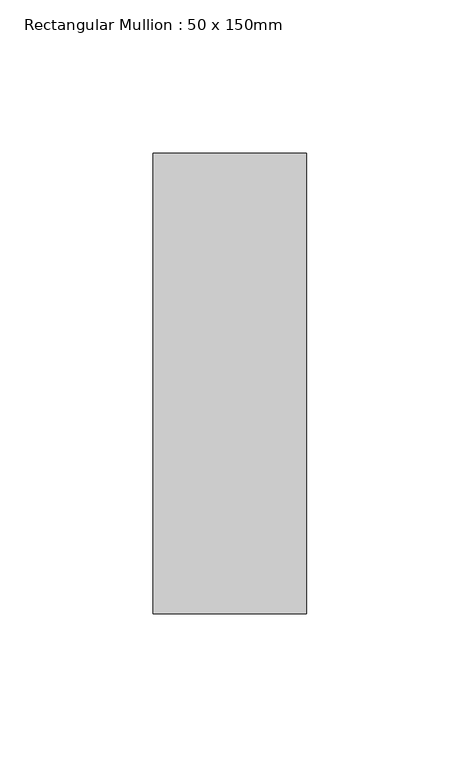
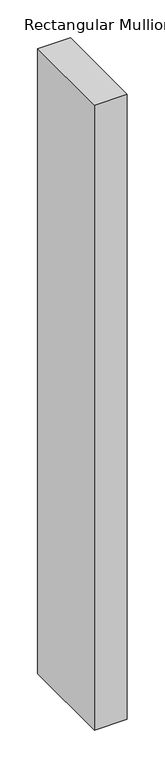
"""IFC4 building model written with IfcOpenShell, lengths in millimetres: member geometry, Rectangular Mullion : 50 x 150mm."""

from ifc_helpers import new_model, si_unit, frame, origin, place, context, project, spatial, polyline, outline, extrude, source, transform, mapped, element, save


def rectangular_mullion_50_x_150mm_8ebf05df(model_context):
    return source(origin(), model_context, "Body", "SweptSolid", [
        extrude(outline(polyline([(25.0, 75.0), (25.0, -75.0), (-25.0, -75.0), (-25.0, 75.0), (25.0, 75.0)])), frame((0.0, 0.0, -1007.5), z_axis=(0.0, 0.0, 1.0), x_axis=(1.0, 0.0, 0.0)), (0.0, 0.0, 1.0), 1007.5),
    ])


if __name__ == "__main__":
    model = new_model("IFC4")
    model_context = context("Model", 3, world=origin())
    ifc_project = project(units=[si_unit("LENGTHUNIT", "METRE", prefix="MILLI")], contexts=[model_context])
    site = spatial("IfcSite", under=ifc_project)
    building = spatial("IfcBuilding", under=site)
    placement = place(None, origin())
    rectangular_mullion_50_x_150mm_shape = rectangular_mullion_50_x_150mm_8ebf05df(model_context)
    element("IfcMember", 1, ObjectType="Rectangular Mullion : 50 x 150mm", at=placement, inside=building, context=model_context, shape_type="MappedRepresentation", body=[
        mapped(rectangular_mullion_50_x_150mm_shape, transform((0.0, 0.0, 0.0), x_axis=(1.0, 0.0, 0.0), y_axis=(0.0, 1.0, 0.0), z_axis=(0.0, 0.0, 1.0))),
    ])
    save(model, "model.ifc")
